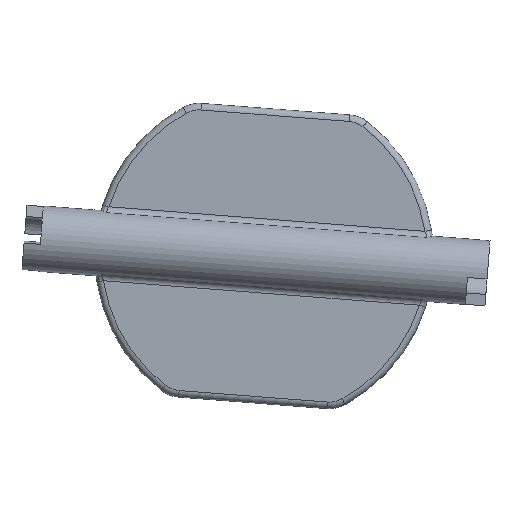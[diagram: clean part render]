
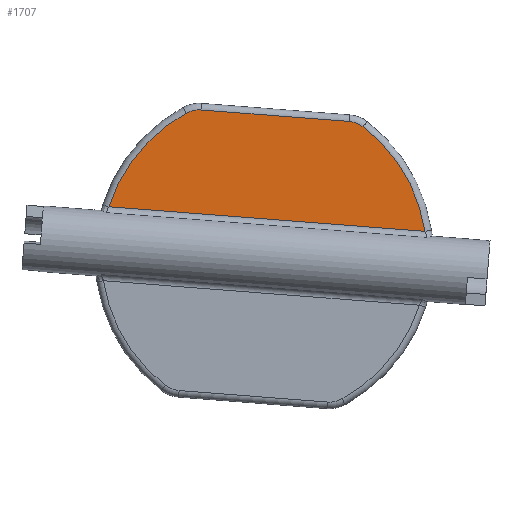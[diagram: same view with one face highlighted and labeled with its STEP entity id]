
A CAD part, front view. The second image highlights one B-rep face of the part: STEP entity #1707.
In plain terms, the highlighted planar face has unit normal (0, -1, 0).
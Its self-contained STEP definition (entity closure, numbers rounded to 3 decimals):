
#1=DIRECTION('',(-0.997,0.,0.077));
#2=VECTOR('',#1,48.354);
#3=CARTESIAN_POINT('',(121.267,-1.,183.986));
#4=LINE('',#3,#2);
#5=CARTESIAN_POINT('',(96.725,-1.,180.216));
#6=DIRECTION('',(0.,-1.,0.));
#7=DIRECTION('',(-0.478,0.,0.878));
#8=AXIS2_PLACEMENT_3D('',#5,#6,#7);
#10=CARTESIAN_POINT('',(86.769,-1.,198.512));
#11=DIRECTION('',(0.,-1.,0.));
#12=DIRECTION('',(0.077,0.,0.997));
#13=AXIS2_PLACEMENT_3D('',#10,#11,#12);
#15=DIRECTION('',(-0.997,0.,0.077));
#16=VECTOR('',#15,22.682);
#17=CARTESIAN_POINT('',(109.692,-1.,200.747));
#18=LINE('',#17,#16);
#19=CARTESIAN_POINT('',(109.383,-1.,196.759));
#20=DIRECTION('',(0.,-1.,0.));
#21=DIRECTION('',(0.608,0.,0.794));
#22=AXIS2_PLACEMENT_3D('',#19,#20,#21);
#24=CARTESIAN_POINT('',(96.725,-1.,180.216));
#25=DIRECTION('',(0.,-1.,0.));
#26=DIRECTION('',(0.988,0.,0.152));
#27=AXIS2_PLACEMENT_3D('',#24,#25,#26);
#57=CARTESIAN_POINT('',(73.058,-1.,187.725));
#81=CARTESIAN_POINT('',(121.267,-1.,183.986));
#1499=VERTEX_POINT('',#57);
#1502=VERTEX_POINT('',#81);
#1680=CARTESIAN_POINT('',(111.813,-1.,199.935));
#1681=VERTEX_POINT('',#1680);
#1682=CARTESIAN_POINT('',(109.692,-1.,200.747));
#1683=VERTEX_POINT('',#1682);
#1684=CARTESIAN_POINT('',(87.078,-1.,202.5));
#1685=VERTEX_POINT('',#1684);
#1686=CARTESIAN_POINT('',(84.857,-1.,202.026));
#1687=VERTEX_POINT('',#1686);
#1688=CARTESIAN_POINT('',(0.,-1.,0.));
#1689=DIRECTION('',(0.,1.,0.));
#1690=DIRECTION('',(1.,0.,0.));
#1691=AXIS2_PLACEMENT_3D('',#1688,#1689,#1690);
#1692=PLANE('',#1691);
#1694=ORIENTED_EDGE('',*,*,#1693,.T.);
#1696=ORIENTED_EDGE('',*,*,#1695,.F.);
#1698=ORIENTED_EDGE('',*,*,#1697,.F.);
#1700=ORIENTED_EDGE('',*,*,#1699,.F.);
#1702=ORIENTED_EDGE('',*,*,#1701,.F.);
#1704=ORIENTED_EDGE('',*,*,#1703,.F.);
#1705=EDGE_LOOP('',(#1694,#1696,#1698,#1700,#1702,#1704));
#1706=FACE_OUTER_BOUND('',#1705,.F.);
#1707=ADVANCED_FACE('',(#1706),#1692,.F.);
#9=CIRCLE('',#8,24.83);
#14=CIRCLE('',#13,4.);
#23=CIRCLE('',#22,4.);
#28=CIRCLE('',#27,24.83);
#1693=EDGE_CURVE('',#1502,#1499,#4,.T.);
#1695=EDGE_CURVE('',#1687,#1499,#9,.T.);
#1697=EDGE_CURVE('',#1685,#1687,#14,.T.);
#1699=EDGE_CURVE('',#1683,#1685,#18,.T.);
#1701=EDGE_CURVE('',#1681,#1683,#23,.T.);
#1703=EDGE_CURVE('',#1502,#1681,#28,.T.);
